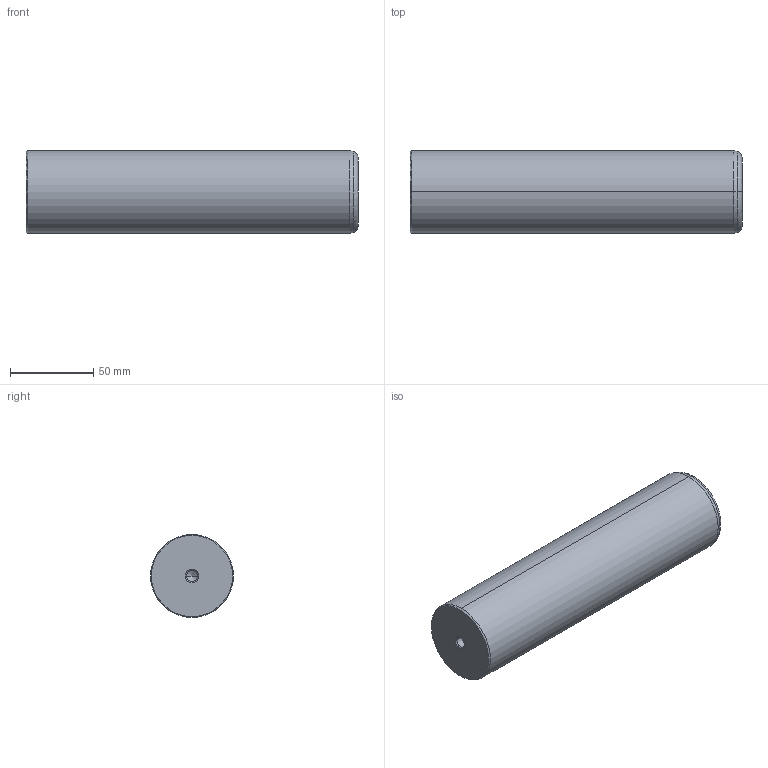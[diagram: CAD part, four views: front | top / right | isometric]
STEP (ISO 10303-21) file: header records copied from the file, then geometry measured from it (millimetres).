
FILE_DESCRIPTION(('CATIA V5 STEP Exchange'),'2;1');
FILE_NAME('C:\Users\Utente\Desktop\IO LAVORO\3D X SITO CF\X SITO\720\720-50x200.stp','2020-12-30T21:43:43+00:00',('none'),('none'),'CATIA Version 5 Release 20 GA (IN-10)','CATIA V5 STEP AP203','none');
FILE_SCHEMA(('CONFIG_CONTROL_DESIGN'));
Length unit declared in the file: millimetre
Products named in the file (1): 720-50x200
Bounding box: 200 x 50 x 50 mm (x, y, z)
Volume: 390154.3 mm3; surface area: 35935.6 mm2
Topology: 1 solids, 1 shells, 22 faces, 56 edges, 34 vertices
Faces by surface type: cone 12, cylinder 6, plane 2, torus 2
Entity records: 755 total; most frequent: CARTESIAN_POINT 216, ORIENTED_EDGE 104, DIRECTION 89, EDGE_CURVE 52, AXIS2_PLACEMENT_3D 50, VERTEX_POINT 34, CIRCLE 27, EDGE_LOOP 24
